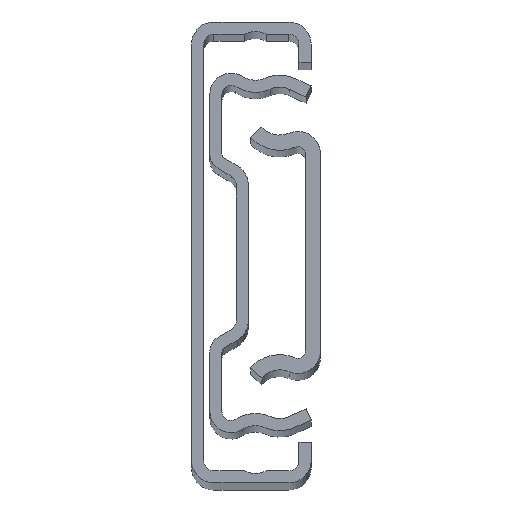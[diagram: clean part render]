
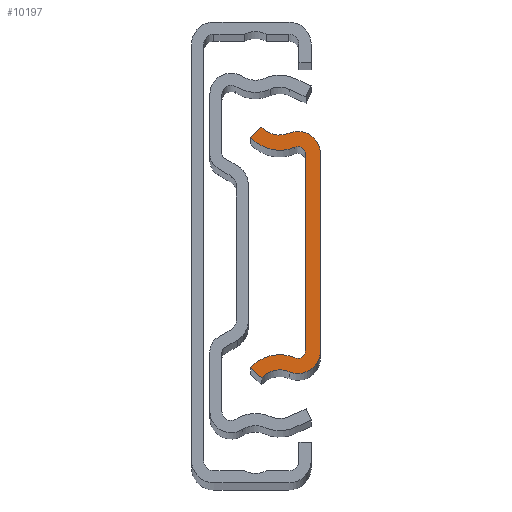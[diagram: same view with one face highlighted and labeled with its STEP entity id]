
A CAD part, top view. The second image highlights one B-rep face of the part: STEP entity #10197.
In plain terms, the highlighted planar face has unit normal (0, 0, 1).
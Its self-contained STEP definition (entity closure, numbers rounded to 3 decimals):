
#92 = CARTESIAN_POINT ( 'NONE',  ( -0.564, 13.97, 0. ) ) ;
#254 = EDGE_CURVE ( 'NONE', #15767, #16063, #19030, .T. ) ;
#1377 = DIRECTION ( 'NONE',  ( 0., 0., 1. ) ) ;
#2413 = DIRECTION ( 'NONE',  ( 0., 0., -1. ) ) ;
#2693 = VECTOR ( 'NONE', #3238, 1000. ) ;
#2955 = VERTEX_POINT ( 'NONE', #6833 ) ;
#2981 = DIRECTION ( 'NONE',  ( 0.745, -0.667, 0. ) ) ;
#3145 = CARTESIAN_POINT ( 'NONE',  ( 3.45, -9.725, 0. ) ) ;
#3238 = DIRECTION ( 'NONE',  ( 0., 1., 0. ) ) ;
#3346 = VERTEX_POINT ( 'NONE', #21036 ) ;
#3527 = DIRECTION ( 'NONE',  ( 1., 0., 0. ) ) ;
#3597 = ORIENTED_EDGE ( 'NONE', *, *, #12995, .T. ) ;
#3744 = CIRCLE ( 'NONE', #7364, 0.726 ) ;
#4304 = VERTEX_POINT ( 'NONE', #16179 ) ;
#4690 = ORIENTED_EDGE ( 'NONE', *, *, #23461, .T. ) ;
#5073 = EDGE_LOOP ( 'NONE', ( #5478, #6190, #22924, #20511, #14726, #8034, #4690, #3597, #11490, #7343, #12293, #24580 ) ) ;
#5258 = EDGE_CURVE ( 'NONE', #3346, #13867, #12426, .T. ) ;
#5439 = EDGE_CURVE ( 'NONE', #12661, #3346, #15728, .T. ) ;
#5478 = ORIENTED_EDGE ( 'NONE', *, *, #254, .T. ) ;
#6190 = ORIENTED_EDGE ( 'NONE', *, *, #24014, .T. ) ;
#6816 = LINE ( 'NONE', #16900, #17214 ) ;
#6833 = CARTESIAN_POINT ( 'NONE',  ( 0.942, 10.394, 0. ) ) ;
#7146 = LINE ( 'NONE', #15377, #13142 ) ;
#7159 = DIRECTION ( 'NONE',  ( 1., 0., 0. ) ) ;
#7343 = ORIENTED_EDGE ( 'NONE', *, *, #25355, .T. ) ;
#7364 = AXIS2_PLACEMENT_3D ( 'NONE', #9053, #26013, #8966 ) ;
#7532 = CIRCLE ( 'NONE', #15240, 3.88 ) ;
#7936 = EDGE_CURVE ( 'NONE', #20703, #12661, #10403, .T. ) ;
#8034 = ORIENTED_EDGE ( 'NONE', *, *, #19951, .T. ) ;
#8816 = VECTOR ( 'NONE', #2981, 1000. ) ;
#8831 = CARTESIAN_POINT ( 'NONE',  ( 1.224, -9.725, 0. ) ) ;
#8966 = DIRECTION ( 'NONE',  ( -1., 0., 0. ) ) ;
#9053 = CARTESIAN_POINT ( 'NONE',  ( 1.224, 9.725, 0. ) ) ;
#9297 = DIRECTION ( 'NONE',  ( -0.745, -0.667, 0. ) ) ;
#9320 = CARTESIAN_POINT ( 'NONE',  ( 1.224, -9.725, 0. ) ) ;
#9474 = DIRECTION ( 'NONE',  ( -1., 0., 0. ) ) ;
#9858 = CARTESIAN_POINT ( 'NONE',  ( -2.333, 12.378, 0. ) ) ;
#10197 = ADVANCED_FACE ( 'Face2', ( #21946 ), #10283, .T. ) ;
#10217 = CIRCLE ( 'NONE', #13986, 2.226 ) ;
#10283 = PLANE ( 'NONE',  #25767 ) ;
#10403 = LINE ( 'NONE', #3145, #2693 ) ;
#10979 = AXIS2_PLACEMENT_3D ( 'NONE', #8831, #2413, #7159 ) ;
#11267 = DIRECTION ( 'NONE',  ( -1., 0., 0. ) ) ;
#11351 = EDGE_CURVE ( 'NONE', #13537, #21481, #6816, .T. ) ;
#11490 = ORIENTED_EDGE ( 'NONE', *, *, #11351, .T. ) ;
#11796 = CARTESIAN_POINT ( 'NONE',  ( -3.45, -11.377, 0. ) ) ;
#11826 = LINE ( 'NONE', #21772, #8816 ) ;
#11873 = CARTESIAN_POINT ( 'NONE',  ( 1.95, -9.725, 0. ) ) ;
#12293 = ORIENTED_EDGE ( 'NONE', *, *, #25684, .T. ) ;
#12331 = CARTESIAN_POINT ( 'NONE',  ( -0.564, -13.97, 0. ) ) ;
#12426 = CIRCLE ( 'NONE', #27365, 2.38 ) ;
#12661 = VERTEX_POINT ( 'NONE', #17016 ) ;
#12674 = DIRECTION ( 'NONE',  ( 1., 0., 0. ) ) ;
#12864 = VERTEX_POINT ( 'NONE', #11796 ) ;
#12995 = EDGE_CURVE ( 'NONE', #2955, #13537, #3744, .T. ) ;
#13142 = VECTOR ( 'NONE', #9297, 1000. ) ;
#13476 = CARTESIAN_POINT ( 'NONE',  ( -0.564, 13.97, 0. ) ) ;
#13537 = VERTEX_POINT ( 'NONE', #19405 ) ;
#13867 = VERTEX_POINT ( 'NONE', #9858 ) ;
#13894 = CARTESIAN_POINT ( 'NONE',  ( 3.45, -9.725, 0. ) ) ;
#13986 = AXIS2_PLACEMENT_3D ( 'NONE', #9320, #24299, #15946 ) ;
#14160 = CARTESIAN_POINT ( 'NONE',  ( -0.564, -13.97, 0. ) ) ;
#14726 = ORIENTED_EDGE ( 'NONE', *, *, #5258, .T. ) ;
#15121 = DIRECTION ( 'NONE',  ( 0., 0., -1. ) ) ;
#15153 = CIRCLE ( 'NONE', #10979, 0.726 ) ;
#15240 = AXIS2_PLACEMENT_3D ( 'NONE', #13476, #20154, #9474 ) ;
#15377 = CARTESIAN_POINT ( 'NONE',  ( -3.45, 11.377, 0. ) ) ;
#15728 = CIRCLE ( 'NONE', #15832, 2.226 ) ;
#15767 = VERTEX_POINT ( 'NONE', #25127 ) ;
#15832 = AXIS2_PLACEMENT_3D ( 'NONE', #17710, #26245, #11267 ) ;
#15946 = DIRECTION ( 'NONE',  ( 1., 0., 0. ) ) ;
#16063 = VERTEX_POINT ( 'NONE', #18068 ) ;
#16179 = CARTESIAN_POINT ( 'NONE',  ( -3.45, 11.377, 0. ) ) ;
#16712 = DIRECTION ( 'NONE',  ( 0., -1., 0. ) ) ;
#16900 = CARTESIAN_POINT ( 'NONE',  ( 1.95, -9.725, 0. ) ) ;
#17016 = CARTESIAN_POINT ( 'NONE',  ( 3.45, 9.725, 0. ) ) ;
#17214 = VECTOR ( 'NONE', #16712, 1000. ) ;
#17461 = DIRECTION ( 'NONE',  ( -1., 0., 0. ) ) ;
#17710 = CARTESIAN_POINT ( 'NONE',  ( 1.224, 9.725, 0. ) ) ;
#18068 = CARTESIAN_POINT ( 'NONE',  ( 0.36, -11.777, 0. ) ) ;
#18131 = AXIS2_PLACEMENT_3D ( 'NONE', #14160, #1377, #3527 ) ;
#18895 = CARTESIAN_POINT ( 'NONE',  ( -0.564, -13.97, 0. ) ) ;
#19030 = CIRCLE ( 'NONE', #25297, 2.38 ) ;
#19088 = DIRECTION ( 'NONE',  ( 0., 0., -1. ) ) ;
#19405 = CARTESIAN_POINT ( 'NONE',  ( 1.95, 9.725, 0. ) ) ;
#19951 = EDGE_CURVE ( 'NONE', #13867, #4304, #7146, .T. ) ;
#20154 = DIRECTION ( 'NONE',  ( 0., 0., 1. ) ) ;
#20511 = ORIENTED_EDGE ( 'NONE', *, *, #5439, .T. ) ;
#20703 = VERTEX_POINT ( 'NONE', #13894 ) ;
#21036 = CARTESIAN_POINT ( 'NONE',  ( 0.36, 11.777, 0. ) ) ;
#21109 = CARTESIAN_POINT ( 'NONE',  ( 0.942, -10.394, 0. ) ) ;
#21481 = VERTEX_POINT ( 'NONE', #11873 ) ;
#21772 = CARTESIAN_POINT ( 'NONE',  ( -3.45, -11.377, 0. ) ) ;
#21946 = FACE_OUTER_BOUND ( 'NONE', #5073, .T. ) ;
#22924 = ORIENTED_EDGE ( 'NONE', *, *, #7936, .T. ) ;
#23315 = VERTEX_POINT ( 'NONE', #21109 ) ;
#23347 = DIRECTION ( 'NONE',  ( 0., 0., 1. ) ) ;
#23461 = EDGE_CURVE ( 'NONE', #4304, #2955, #7532, .T. ) ;
#24014 = EDGE_CURVE ( 'NONE', #16063, #20703, #10217, .T. ) ;
#24299 = DIRECTION ( 'NONE',  ( 0., 0., 1. ) ) ;
#24580 = ORIENTED_EDGE ( 'NONE', *, *, #24956, .T. ) ;
#24956 = EDGE_CURVE ( 'NONE', #12864, #15767, #11826, .T. ) ;
#25127 = CARTESIAN_POINT ( 'NONE',  ( -2.333, -12.378, 0. ) ) ;
#25297 = AXIS2_PLACEMENT_3D ( 'NONE', #12331, #19088, #25348 ) ;
#25348 = DIRECTION ( 'NONE',  ( 1., 0., 0. ) ) ;
#25355 = EDGE_CURVE ( 'NONE', #21481, #23315, #15153, .T. ) ;
#25684 = EDGE_CURVE ( 'NONE', #23315, #12864, #26193, .T. ) ;
#25767 = AXIS2_PLACEMENT_3D ( 'NONE', #18895, #23347, #12674 ) ;
#26013 = DIRECTION ( 'NONE',  ( 0., 0., -1. ) ) ;
#26193 = CIRCLE ( 'NONE', #18131, 3.88 ) ;
#26245 = DIRECTION ( 'NONE',  ( 0., 0., 1. ) ) ;
#27365 = AXIS2_PLACEMENT_3D ( 'NONE', #92, #15121, #17461 ) ;
